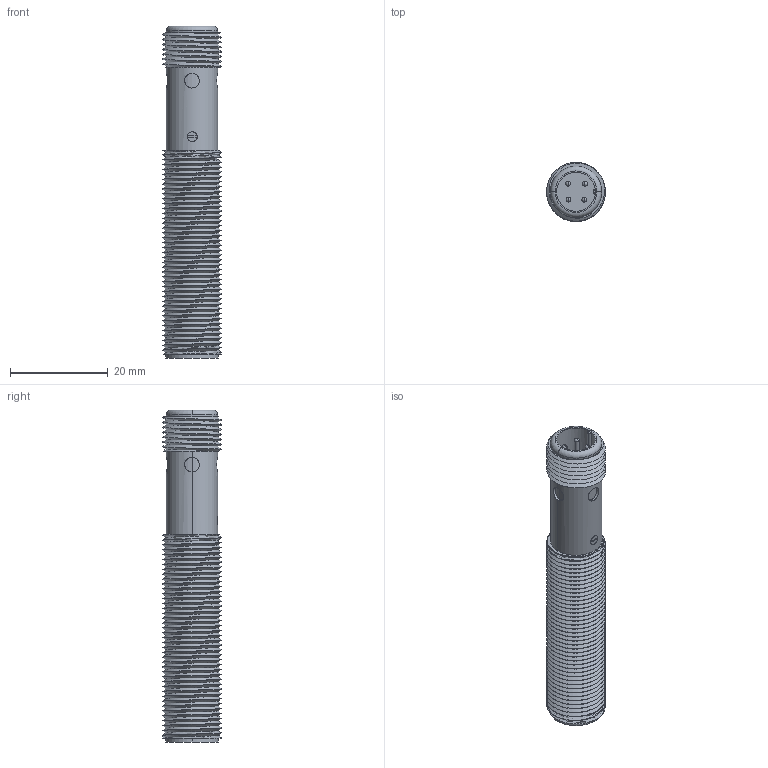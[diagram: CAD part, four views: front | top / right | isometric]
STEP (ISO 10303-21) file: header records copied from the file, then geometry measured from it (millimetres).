
FILE_DESCRIPTION (( 'STEP AP214' ), '1' );
FILE_NAME ('BCM4N22.STEP', '2026-01-21T07:30:02', ( '' ), ( '' ), 'SwSTEP 2.0', 'SolidWorks 2025', '' );
FILE_SCHEMA (( 'AUTOMOTIVE_DESIGN' ));
Length unit declared in the file: millimetre
Products named in the file (13): ______M12-Plug.STEP; 装配体-C1CF-M1206P-OEU4.STEP; ____-__________.STEP; ____-__________-0.STEP; ____1 - ____ (3).STEP; ____1.STEP; ____-M12VR.STEP; BCM4N22; ____-______________.STEP; plog__2.STEP; ____1 - ____ (4).STEP; ____1 - ____.STEP; ____-led__.STEP
Assembly tree (12 placements, depth 4):
  BCM4N22
    装配体-C1CF-M1206P-OEU4.STEP
      ______M12-Plug.STEP
        plog__2.STEP
        ____1.STEP
        ____1 - ____.STEP
        ____1 - ____ (3).STEP
        ____1 - ____ (4).STEP
        ____-led__.STEP
      ____-__________.STEP
      ____-______________.STEP
      ____-__________-0.STEP
      ____-M12VR.STEP
Bounding box: 12.04 x 12.04 x 68 mm (x, y, z)
Volume: 2680.7 mm3; surface area: 7764.3 mm2
Topology: 10 solids, 10 shells, 177 faces, 460 edges, 302 vertices
Faces by surface type: cylinder 129, plane 33, sphere 8, bspline 4, torus 3
Entity records: 12533 total; most frequent: CARTESIAN_POINT 8353, ORIENTED_EDGE 888, DIRECTION 725, EDGE_CURVE 444, VERTEX_POINT 294, AXIS2_PLACEMENT_3D 291, EDGE_LOOP 196, ADVANCED_FACE 177
